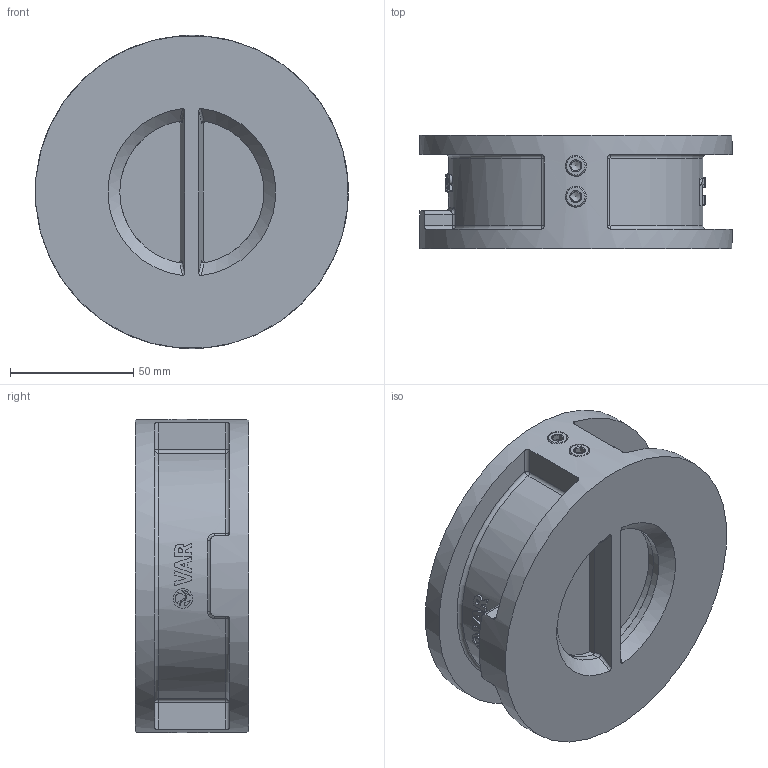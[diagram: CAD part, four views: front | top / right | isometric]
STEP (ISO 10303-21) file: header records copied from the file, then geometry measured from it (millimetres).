
FILE_DESCRIPTION(('STEP AP203'), '1');
FILE_NAME('VAR ZETKA 钺疣蝽 觌囡囗', '', ('UNSPECIFIED'), ('UNSPECIFIED'), 'C3D Converter', 'C3D Toolkit', '');
FILE_SCHEMA(('CONFIG_CONTROL_DESIGN'));
Length unit declared in the file: millimetre
Assembly tree (18 placements, depth 2):
  (unnamed)
    (unnamed)
    (unnamed)  x2
    (unnamed)  x4
    (unnamed)
    (unnamed)  x2
    (unnamed)  x2
    (unnamed)  x2
    (unnamed)  x2
    (unnamed)  x2
Bounding box: 126.88 x 46 x 127 mm (x, y, z)
Volume: 293106.2 mm3; surface area: 90571.4 mm2
Topology: 32 solids, 32 shells, 576 faces, 1447 edges, 941 vertices
Faces by surface type: plane 247, extrusion 150, cylinder 115, cone 22, bspline 20, torus 12, sphere 10
Full cylindrical faces by diameter (mm): 1.5 x2, 4 x4, 5 x8, 7.65 x16, 7.894 x1, 8.5 x8, 12.15 x6, 71.5 x1, 80 x2, 127 x1
Entity records: 28475 total; most frequent: CARTESIAN_POINT 15241, ORIENTED_EDGE 2206, DIRECTION 1667, EDGE_CURVE 1103, VERTEX_POINT 743, VECTOR 593, EDGE_LOOP 544, AXIS2_PLACEMENT_3D 537
